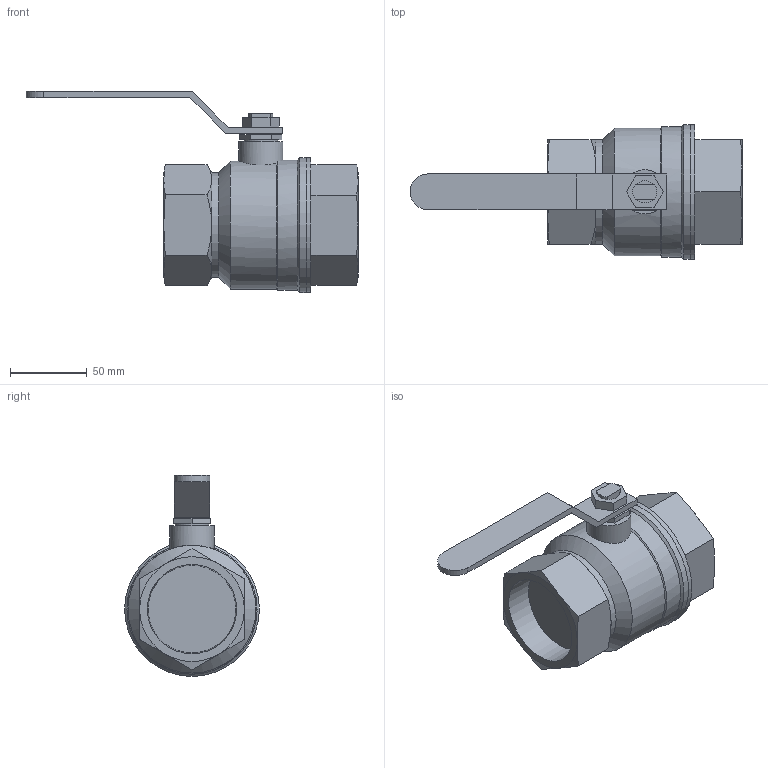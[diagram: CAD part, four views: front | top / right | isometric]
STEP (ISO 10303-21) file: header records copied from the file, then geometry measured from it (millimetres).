
FILE_DESCRIPTION((' '),'2;1');
FILE_NAME('N:\Technical Support\Private\Jomar Valve CAD\Ball Valves\Brass\T-100NE[G]\2.0 T-100NE[G] (100-708[NGDZ])FusionCopy.stp.step','2016-07-28T09:42:18',(' '),(' '),' ','ACIS',' ');
FILE_SCHEMA(('CONFIG_CONTROL_DESIGN'));
Length unit declared in the file: inch
Products named in the file (7): N:\Technical Support\Private\Jomar Valve CAD\Ball Valves\Brass\T-100NE[G]\2.0 T-100NE[G] (100-708[NGDZ])FusionCopy.stp.step; Body1; Body2; Body3; Body4; Body5; Body6
Assembly tree (6 placements, depth 2):
  N:\Technical Support\Private\Jomar Valve CAD\Ball Valves\Brass\T-100NE[G]\2.0 T-100NE[G] (100-708[NGDZ])FusionCopy.stp.step
    Body1
    Body2
    Body3
    Body4
    Body5
    Body6
Bounding box: 216.75 x 87.99 x 131.24 mm (x, y, z)
Volume: 532959.7 mm3; surface area: 75416.1 mm2
Topology: 6 solids, 6 shells, 91 faces, 204 edges, 130 vertices
Faces by surface type: plane 33, bspline 25, cone 22, cylinder 11
Full cylindrical faces by diameter (mm): 16.739 x1, 16.764 x1, 21.946 x1, 28.829 x1, 68.428 x1, 83.414 x1, 84.938 x1, 87.986 x2
Entity records: 3496 total; most frequent: CARTESIAN_POINT 746, ORIENTED_EDGE 364, DIRECTION 350, EDGE_CURVE 182, AXIS2_PLACEMENT_3D 129, VERTEX_POINT 122, EDGE_LOOP 116, VECTOR 92
